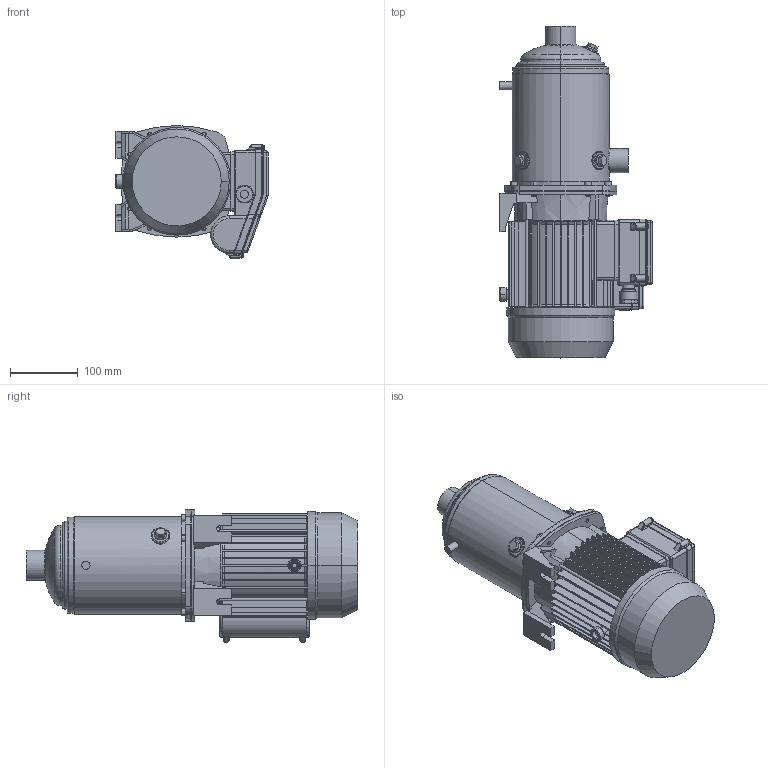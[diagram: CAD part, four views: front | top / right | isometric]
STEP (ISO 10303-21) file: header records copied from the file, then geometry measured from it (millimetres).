
FILE_DESCRIPTION((''),'2;1');
FILE_NAME('MATRIX_5-7T_1_5_M_ASM','2017-04-07T',('rosa'),('"Ebara Pumps Europe +39.444.706811"'),'PRO/ENGINEER BY PARAMETRIC TECHNOLOGY CORPORATION, 2012130','PRO/ENGINEER BY PARAMETRIC TECHNOLOGY CORPORATION, 2012130','');
FILE_SCHEMA(('AUTOMOTIVE_DESIGN { 1 0 10303 214 1 1 1 1 }'));
Length unit declared in the file: millimetre
Products named in the file (6): CORPO_POMPA_MATRIX_5-7; SUPPORTO_MATRIX_MEC_80; MEC_80_MONOFASE; 72229; COPRIMORSETTIERA_MEC80_90_M; MATRIX_5-7T_1_5_M_ASM
Assembly tree (5 placements, depth 2):
  MATRIX_5-7T_1_5_M_ASM
    CORPO_POMPA_MATRIX_5-7
    SUPPORTO_MATRIX_MEC_80
    MEC_80_MONOFASE
    72229
    COPRIMORSETTIERA_MEC80_90_M
Bounding box: 225 x 490.8 x 196.5 mm (x, y, z)
Volume: 6764438.3 mm3; surface area: 613601.2 mm2
Topology: 5 solids, 5 shells, 963 faces, 2300 edges, 1395 vertices
Faces by surface type: plane 428, cylinder 305, cone 108, torus 62, bspline 56, sphere 4
Entity records: 39155 total; most frequent: CARTESIAN_POINT 9288, DIRECTION 4724, ORIENTED_EDGE 4600, EDGE_CURVE 2300, PRESENTATION_STYLE_ASSIGNMENT 2254, STYLED_ITEM 2254, CURVE_STYLE 2250, AXIS2_PLACEMENT_3D 1820
